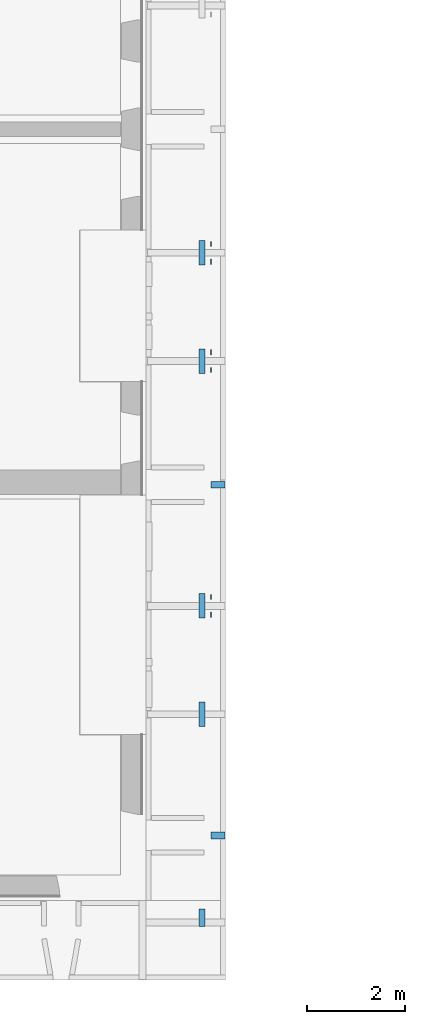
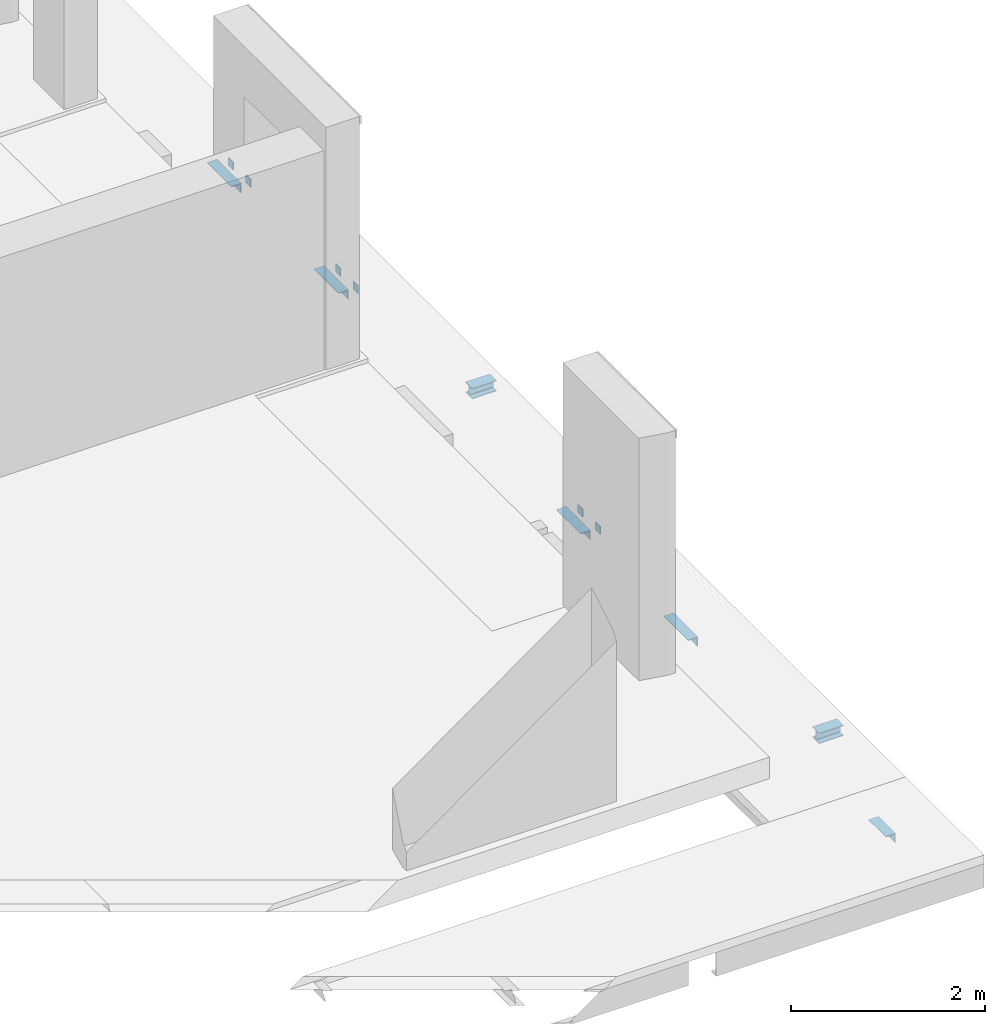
# One storey, part 16 of 27: 13 beams.
"""IFC2X3 building model written with IfcOpenShell, lengths in millimetres."""

from ifc_helpers import new_model, entity, si_unit, converted_unit, derived_unit, direction, frame, frame_2d, origin, origin_2d_with_axis, place, context, subcontext, project, spatial, polyline, circle_curve, parameter, trimmed, segment, composite_curve, rectangle, i_section, outline, extrude, source, transform, mapped, material, type_object, type_shapes, element, save


model = new_model("IFC2X3")

# Units and contexts
model_context = context("Model", 3, precision=0.01, world=origin(), true_north=direction((6.12303176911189e-17, 1.0)))
body_context = subcontext(model_context, "Body", "Model", "MODEL_VIEW")
ifc_project = project(units=[si_unit("LENGTHUNIT", "METRE", prefix="MILLI"), si_unit("AREAUNIT", "SQUARE_METRE"), si_unit("VOLUMEUNIT", "CUBIC_METRE"), converted_unit("PLANEANGLEUNIT", "DEGREE", entity("IfcRatioMeasure", 0.0174532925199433), si_unit("PLANEANGLEUNIT", "RADIAN"), dimensions=[0, 0, 0, 0, 0, 0, 0]), si_unit("MASSUNIT", "GRAM", prefix="KILO"), derived_unit("MASSDENSITYUNIT", [(si_unit("MASSUNIT", "GRAM", prefix="KILO"), 1), (si_unit("LENGTHUNIT", "METRE"), -3)]), si_unit("TIMEUNIT", "SECOND"), si_unit("FREQUENCYUNIT", "HERTZ"), si_unit("THERMODYNAMICTEMPERATUREUNIT", "DEGREE_CELSIUS"), derived_unit("THERMALTRANSMITTANCEUNIT", [(si_unit("MASSUNIT", "GRAM", prefix="KILO"), 1), (si_unit("THERMODYNAMICTEMPERATUREUNIT", "KELVIN"), -1), (si_unit("TIMEUNIT", "SECOND"), -3)]), derived_unit("VOLUMETRICFLOWRATEUNIT", [(si_unit("LENGTHUNIT", "METRE"), 3), (si_unit("TIMEUNIT", "SECOND"), -1)]), si_unit("ELECTRICCURRENTUNIT", "AMPERE"), si_unit("ELECTRICVOLTAGEUNIT", "VOLT"), si_unit("POWERUNIT", "WATT"), si_unit("FORCEUNIT", "NEWTON", prefix="KILO"), si_unit("ILLUMINANCEUNIT", "LUX"), si_unit("LUMINOUSFLUXUNIT", "LUMEN"), si_unit("LUMINOUSINTENSITYUNIT", "CANDELA"), derived_unit("USERDEFINED", [(si_unit("MASSUNIT", "GRAM", prefix="KILO"), -1), (si_unit("LENGTHUNIT", "METRE"), -2), (si_unit("TIMEUNIT", "SECOND"), 3), (si_unit("LUMINOUSFLUXUNIT", "LUMEN"), 1)]), derived_unit("LINEARVELOCITYUNIT", [(si_unit("LENGTHUNIT", "METRE"), 1), (si_unit("TIMEUNIT", "SECOND"), -1)]), si_unit("PRESSUREUNIT", "PASCAL"), derived_unit("USERDEFINED", [(si_unit("LENGTHUNIT", "METRE"), -2), (si_unit("MASSUNIT", "GRAM", prefix="KILO"), 1), (si_unit("TIMEUNIT", "SECOND"), -2)])], contexts=[model_context])

# Site, building, storey
site_placement = place(None, origin())
site = spatial("IfcSite", under=ifc_project, at=site_placement, Name="Default", CompositionType="ELEMENT")
building_placement = place(site_placement, origin())
building = spatial("IfcBuilding", under=site, at=building_placement, Name="niet gebruiken", CompositionType="ELEMENT")
storey_placement = place(building_placement, frame((0.0, 0.0, 18000.0)))
storey = spatial("IfcBuildingStorey", under=building, at=storey_placement, Name="05 vijfde verdieping", CompositionType="ELEMENT", Elevation=18000.0)

# Beams
ifc_material = material(Name="NLRS_h2_staal")
beam_type_1 = type_object("IfcBeamType", Name="NLRS_28.11_SF_WPB_stalen ligger HEA_gen:ligger HEA 140", PredefinedType="BEAM")
beam_1_placement = place(storey_placement, frame((158800.0, 3100.0, -1015.0)))
element("IfcBeam", 1, at=beam_1_placement, inside=storey, type_object=beam_type_1, material=ifc_material, Name="NLRS_28.11_SF_WPB_stalen ligger HEA_gen:ligger HEA 140", ObjectType="NLRS_28.11_SF_WPB_stalen ligger HEA_gen:ligger HEA 140", context=body_context, shape_type="SweptSolid", body=[
    extrude(i_section(OverallWidth=140.000000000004, OverallDepth=133.0, WebThickness=5.49999999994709, FlangeThickness=8.49999999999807, FilletRadius=11.9999999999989, at=frame_2d((-4.33431068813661e-12, 8.10018718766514e-13), x_axis=(0.0, 1.0))), frame((0.0, 0.0, -66.5000000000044), z_axis=(1.0, 0.0, 0.0), x_axis=(0.0, 0.0, -1.0)), (0.0, 0.0, 1.0), 290.000000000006),
])
beam_2_placement = place(storey_placement, frame((158800.0, 10250.0, -1015.0)))
element("IfcBeam", 2, at=beam_2_placement, inside=storey, type_object=beam_type_1, material=ifc_material, Name="NLRS_28.11_SF_WPB_stalen ligger HEA_gen:ligger HEA 140", ObjectType="NLRS_28.11_SF_WPB_stalen ligger HEA_gen:ligger HEA 140", context=body_context, shape_type="SweptSolid", body=[
    extrude(i_section(OverallWidth=140.000000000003, OverallDepth=133.0, WebThickness=5.49999999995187, FlangeThickness=8.49999999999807, FilletRadius=11.9999999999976, at=frame_2d((-4.33431068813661e-12, 0.0), x_axis=(0.0, 1.0))), frame((0.0, 0.0, -66.5000000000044), z_axis=(1.0, 0.0, 0.0), x_axis=(0.0, 0.0, -1.0)), (0.0, 0.0, 1.0), 290.000000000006),
])
beam_type_2 = type_object("IfcBeamType", Name="NLRS_28.11_SF_WPB_stalen ligger hoekprofiel gelijkzijdig_gen:ligger gelijzijdig hoekprofiel LEQU_120x120x12_!", PredefinedType="BEAM")
for number, where, z_axis, x_axis in (
    (3, (158660.0, 5800.0, -1268.0), (0.0, 0.0, 1.0), (0.0, -1.0, 0.0)),
    (4, (158660.0, 8010.0, -1268.0), (0.0, 0.0, 1.0), (0.0, -1.0, 0.0)),
    (5, (158660.0, 13000.0, -1268.0), (0.0, 0.0, 1.0), (0.0, -1.0, 0.0)),
    (6, (158660.0, 15210.0, -1268.0), (0.0, 0.0, 1.0), (0.0, -1.0, 0.0)),
):
    element("IfcBeam", number, at=place(storey_placement, frame(where, z_axis=z_axis, x_axis=x_axis)), inside=storey, type_object=beam_type_2, material=ifc_material, Name="NLRS_28.11_SF_WPB_stalen ligger hoekprofiel gelijkzijdig_gen:ligger gelijzijdig hoekprofiel LEQU_120x120x12_!", ObjectType="NLRS_28.11_SF_WPB_stalen ligger hoekprofiel gelijkzijdig_gen:ligger gelijzijdig hoekprofiel LEQU_120x120x12_!", context=body_context, shape_type="SweptSolid", body=[
        extrude(outline(composite_curve([segment(polyline([(-44.4444444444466, -75.5555555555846), (-40.4444444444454, -75.5555555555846)]), True, "CONTINUOUS"), segment(trimmed(circle_curve(frame_2d((-40.444444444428, -69.555555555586), x_axis=(0.0, -1.0)), 5.9999999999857), [parameter(0.0)], [parameter(90.0000000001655)], True, "PARAMETER"), True, "CONTINUOUS"), segment(polyline([(-34.4444444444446, -69.555555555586), (-34.4444444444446, 22.4444444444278)]), True, "CONTINUOUS"), segment(trimmed(circle_curve(frame_2d((-22.4444444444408, 22.4444444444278), x_axis=(-1.0, 0.0)), 12.000000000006), [parameter(270.000000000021)], [parameter(0.0)], True, "PARAMETER"), False, "CONTINUOUS"), segment(polyline([(-22.4444444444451, 34.4444444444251), (69.5555555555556, 34.4444444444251)]), True, "CONTINUOUS"), segment(trimmed(circle_curve(frame_2d((69.5555555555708, 40.4444444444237), x_axis=(0.0, -1.0)), 5.9999999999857), [parameter(0.0)], [parameter(90.0000000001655)], True, "PARAMETER"), True, "CONTINUOUS"), segment(polyline([(75.5555555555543, 40.4444444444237), (75.5555555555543, 44.4444444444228)]), True, "CONTINUOUS"), segment(polyline([(75.5555555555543, 44.4444444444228), (-44.4444444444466, 44.4444444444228)]), True, "CONTINUOUS"), segment(polyline([(-44.4444444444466, 44.4444444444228), (-44.4444444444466, -75.5555555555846)]), True, "CONTINUOUS")], self_intersect=False)), frame((-20.0, -24.4444444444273, 75.5555555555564), z_axis=(1.0, 0.0, 0.0), x_axis=(0.0, 0.0, -1.0)), (0.0, 0.0, 1.0), 500.000000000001),
    ])
beam_3_placement = place(storey_placement, frame((158560.0, 1604.0, -1148.0), z_axis=(0.0, 0.0, 1.0), x_axis=(0.0, -1.0, 0.0)))
element("IfcBeam", 7, at=beam_3_placement, inside=storey, type_object=beam_type_2, material=ifc_material, Name="NLRS_28.11_SF_WPB_stalen ligger hoekprofiel gelijkzijdig_gen:ligger gelijzijdig hoekprofiel LEQU_120x120x12_!", ObjectType="NLRS_28.11_SF_WPB_stalen ligger hoekprofiel gelijkzijdig_gen:ligger gelijzijdig hoekprofiel LEQU_120x120x12_!", context=body_context, shape_type="SweptSolid", body=[
    extrude(outline(composite_curve([segment(polyline([(-44.4444444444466, -75.5555555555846), (-40.4444444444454, -75.5555555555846)]), True, "CONTINUOUS"), segment(trimmed(circle_curve(frame_2d((-40.444444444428, -69.5555555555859), x_axis=(0.0, -1.0)), 5.99999999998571), [parameter(0.0)], [parameter(90.0000000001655)], True, "PARAMETER"), True, "CONTINUOUS"), segment(polyline([(-34.4444444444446, -69.5555555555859), (-34.4444444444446, 22.4444444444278)]), True, "CONTINUOUS"), segment(trimmed(circle_curve(frame_2d((-22.4444444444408, 22.4444444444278), x_axis=(-1.0, 0.0)), 12.000000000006), [parameter(270.000000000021)], [parameter(0.0)], True, "PARAMETER"), False, "CONTINUOUS"), segment(polyline([(-22.4444444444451, 34.4444444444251), (69.5555555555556, 34.4444444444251)]), True, "CONTINUOUS"), segment(trimmed(circle_curve(frame_2d((69.5555555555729, 40.4444444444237), x_axis=(0.0, -1.0)), 5.99999999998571), [parameter(0.0)], [parameter(90.0000000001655)], True, "PARAMETER"), True, "CONTINUOUS"), segment(polyline([(75.5555555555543, 40.4444444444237), (75.5555555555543, 44.4444444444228)]), True, "CONTINUOUS"), segment(polyline([(75.5555555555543, 44.4444444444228), (-44.4444444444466, 44.4444444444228)]), True, "CONTINUOUS"), segment(polyline([(-44.4444444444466, 44.4444444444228), (-44.4444444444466, -75.5555555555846)]), True, "CONTINUOUS")], self_intersect=False)), frame((8.0, 75.5555555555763, -44.4444444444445), z_axis=(1.0, 0.0, 0.0), x_axis=(0.0, 0.0, -1.0)), (0.0, 0.0, 1.0), 349.999999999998),
])
beam_type_3 = type_object("IfcBeamType", Name="ligger stripstaal RECT_100x10 gedraaid", PredefinedType="BEAM", material=ifc_material)
shared_shape = source(origin(), body_context, "Body", "SweptSolid", [
    extrude(rectangle(XDim=100.0, YDim=9.99999999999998, at=origin_2d_with_axis()), frame((0.0, 0.0, -50.0), z_axis=(0.0, 0.0, 1.0), x_axis=(-1.0, 0.0, 0.0)), (0.0, 0.0, 1.0), 100.0),
    extrude(rectangle(XDim=100.0, YDim=9.99999999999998, at=origin_2d_with_axis()), frame((0.0, 0.0, -50.0), z_axis=(0.0, 0.0, 1.0), x_axis=(-1.0, 0.0, 0.0)), (0.0, 0.0, 1.0), 100.0),
])
type_shapes(beam_type_3, [shared_shape])
for number, where, z_axis, x_axis, name in (
    (8, (158806.0, 7960.0, -1208.0), (0.0, 0.0, 1.0), (0.0, -1.0, 0.0), "NLRS_28.11_SF_WPB_stalen ligger stripstaal_gen:ligger stripstaal RECT_100x10 gedraaid"),
    (9, (158806.0, 7600.0, -1208.0), (0.0, 0.0, 1.0), (0.0, -1.0, 0.0), "NLRS_28.11_SF_WPB_stalen ligger stripstaal_gen:ligger stripstaal RECT_100x10 gedraaid"),
    (10, (158806.0, 12950.0, -1208.0), (0.0, 0.0, 1.0), (0.0, -1.0, 0.0), "NLRS_28.11_SF_WPB_stalen ligger stripstaal_gen:ligger stripstaal RECT_100x10 gedraaid"),
    (11, (158806.0, 12590.0, -1208.0), (0.0, 0.0, 1.0), (0.0, -1.0, 0.0), "NLRS_28.11_SF_WPB_stalen ligger stripstaal_gen:ligger stripstaal RECT_100x10 gedraaid"),
    (12, (158806.0, 15160.0, -1208.0), (0.0, 0.0, 1.0), (0.0, -1.0, 0.0), "NLRS_28.11_SF_WPB_stalen ligger stripstaal_gen:ligger stripstaal RECT_100x10 gedraaid"),
    (13, (158806.0, 14800.0, -1208.0), (0.0, 0.0, 1.0), (0.0, -1.0, 0.0), "NLRS_28.11_SF_WPB_stalen ligger stripstaal_gen:ligger stripstaal RECT_100x10 gedraaid"),
):
    element("IfcBeam", number, at=place(storey_placement, frame(where, z_axis=z_axis, x_axis=x_axis)), inside=storey, type_object=beam_type_3, material=ifc_material, Name=name, ObjectType="ligger stripstaal RECT_100x10 gedraaid", context=body_context, shape_type="MappedRepresentation", body=[
        mapped(shared_shape, transform((0.0, 0.0, 0.0), scale=1.0)),
    ])

save(model, "model.ifc")
